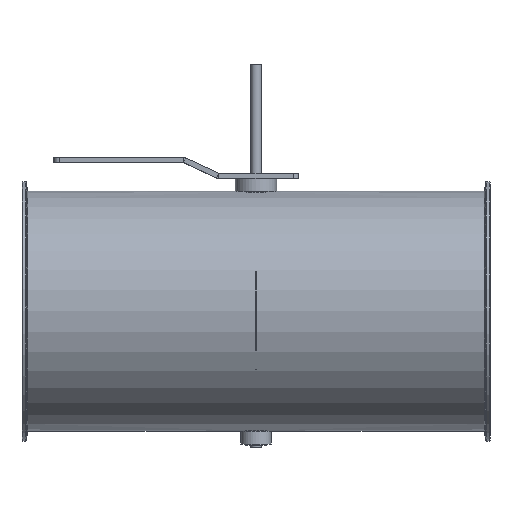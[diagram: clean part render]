
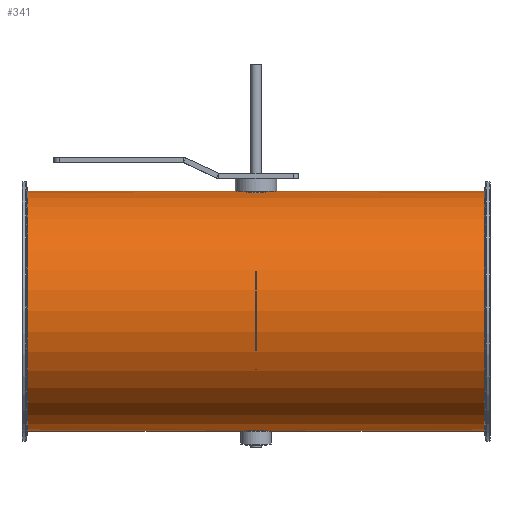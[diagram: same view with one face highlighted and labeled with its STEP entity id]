
A CAD part, top view. The second image highlights one B-rep face of the part: STEP entity #341.
In plain terms, the highlighted cylindrical face has radius 112.8 mm (diameter 225.6 mm), a full revolution.
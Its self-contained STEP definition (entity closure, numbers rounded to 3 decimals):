
#103=B_SPLINE_CURVE_WITH_KNOTS('',3,(#1849,#1850,#1851,#1852,#1853,#1854,
#1855,#1856,#1857,#1858,#1859,#1860,#1861,#1862,#1863,#1864,#1865,#1866),
 .UNSPECIFIED.,.T.,.F.,(2,2,2,2,2,2,2,2,2,2,2),(-0.125,0.,0.125,
0.25,0.375,0.5,0.625,
0.75,0.875,1.,1.125),.UNSPECIFIED.);
#104=B_SPLINE_CURVE_WITH_KNOTS('',3,(#1868,#1869,#1870,#1871,#1872,#1873,
#1874,#1875,#1876,#1877,#1878,#1879,#1880,#1881,#1882,#1883,#1884,#1885),
 .UNSPECIFIED.,.T.,.F.,(2,2,2,2,2,2,2,2,2,2,2),(-0.125,0.,0.125,0.25,0.375,
0.5,0.625,0.75,0.875,1.,1.125),.UNSPECIFIED.);
#275=CYLINDRICAL_SURFACE('',#1252,112.8);
#341=ADVANCED_FACE('',(#459,#460,#461,#462),#275,.T.);
#459=FACE_BOUND('',#591,.T.);
#460=FACE_BOUND('',#592,.T.);
#461=FACE_BOUND('',#593,.T.);
#462=FACE_BOUND('',#594,.T.);
#591=EDGE_LOOP('',(#827));
#592=EDGE_LOOP('',(#828));
#593=EDGE_LOOP('',(#829));
#594=EDGE_LOOP('',(#830));
#827=ORIENTED_EDGE('',*,*,#1053,.T.);
#828=ORIENTED_EDGE('',*,*,#1054,.F.);
#829=ORIENTED_EDGE('',*,*,#1055,.F.);
#830=ORIENTED_EDGE('',*,*,#1056,.T.);
#935=VERTEX_POINT('',#1848);
#936=VERTEX_POINT('',#1867);
#937=VERTEX_POINT('',#1886);
#938=VERTEX_POINT('',#1888);
#1053=EDGE_CURVE('',#935,#935,#1123,.T.);
#1054=EDGE_CURVE('',#936,#936,#103,.T.);
#1055=EDGE_CURVE('',#937,#937,#104,.T.);
#1056=EDGE_CURVE('',#938,#938,#1124,.T.);
#1123=CIRCLE('',#1250,112.8);
#1124=CIRCLE('',#1251,112.8);
#1250=AXIS2_PLACEMENT_3D('',#1847,#1554,#1555);
#1251=AXIS2_PLACEMENT_3D('',#1887,#1556,#1557);
#1252=AXIS2_PLACEMENT_3D('',#1889,#1558,#1559);
#1554=DIRECTION('',(-1.,0.,0.));
#1555=DIRECTION('',(0.,0.,-1.));
#1556=DIRECTION('',(1.,0.,0.));
#1557=DIRECTION('',(0.,0.,1.));
#1558=DIRECTION('',(1.,0.,0.));
#1559=DIRECTION('',(0.,0.,-1.));
#1847=CARTESIAN_POINT('',(214.804,-51.,125.));
#1848=CARTESIAN_POINT('',(214.804,-51.,12.2));
#1849=CARTESIAN_POINT('',(2.644,61.356,115.));
#1850=CARTESIAN_POINT('',(-2.644,61.356,115.));
#1851=CARTESIAN_POINT('',(-5.228,61.462,116.085));
#1852=CARTESIAN_POINT('',(-8.916,61.694,119.774));
#1853=CARTESIAN_POINT('',(-9.999,61.8,122.385));
#1854=CARTESIAN_POINT('',(-10.001,61.8,127.605));
#1855=CARTESIAN_POINT('',(-8.941,61.696,130.2));
#1856=CARTESIAN_POINT('',(-5.208,61.461,133.936));
#1857=CARTESIAN_POINT('',(-2.615,61.356,134.999));
#1858=CARTESIAN_POINT('',(2.607,61.356,135.001));
#1859=CARTESIAN_POINT('',(5.219,61.462,133.92));
#1860=CARTESIAN_POINT('',(8.91,61.694,130.236));
#1861=CARTESIAN_POINT('',(9.997,61.8,127.651));
#1862=CARTESIAN_POINT('',(10.003,61.8,122.368));
#1863=CARTESIAN_POINT('',(8.92,61.694,119.781));
#1864=CARTESIAN_POINT('',(5.233,61.463,116.088));
#1865=CARTESIAN_POINT('',(2.644,61.356,115.));
#1866=CARTESIAN_POINT('',(-2.644,61.356,115.));
#1867=CARTESIAN_POINT('',(0.,61.356,115.));
#1868=CARTESIAN_POINT('',(-2.644,-163.356,115.));
#1869=CARTESIAN_POINT('',(2.644,-163.356,115.));
#1870=CARTESIAN_POINT('',(5.228,-163.462,116.085));
#1871=CARTESIAN_POINT('',(8.916,-163.694,119.774));
#1872=CARTESIAN_POINT('',(9.999,-163.8,122.385));
#1873=CARTESIAN_POINT('',(10.001,-163.8,127.605));
#1874=CARTESIAN_POINT('',(8.941,-163.696,130.2));
#1875=CARTESIAN_POINT('',(5.208,-163.461,133.936));
#1876=CARTESIAN_POINT('',(2.615,-163.356,134.999));
#1877=CARTESIAN_POINT('',(-2.607,-163.356,135.001));
#1878=CARTESIAN_POINT('',(-5.219,-163.462,133.92));
#1879=CARTESIAN_POINT('',(-8.91,-163.694,130.236));
#1880=CARTESIAN_POINT('',(-9.997,-163.8,127.651));
#1881=CARTESIAN_POINT('',(-10.003,-163.8,122.368));
#1882=CARTESIAN_POINT('',(-8.92,-163.694,119.781));
#1883=CARTESIAN_POINT('',(-5.233,-163.463,116.088));
#1884=CARTESIAN_POINT('',(-2.644,-163.356,115.));
#1885=CARTESIAN_POINT('',(2.644,-163.356,115.));
#1886=CARTESIAN_POINT('',(0.,-163.356,115.));
#1887=CARTESIAN_POINT('',(-214.804,-51.,125.));
#1888=CARTESIAN_POINT('',(-214.804,-51.,237.8));
#1889=CARTESIAN_POINT('',(-220.,-51.,125.));
